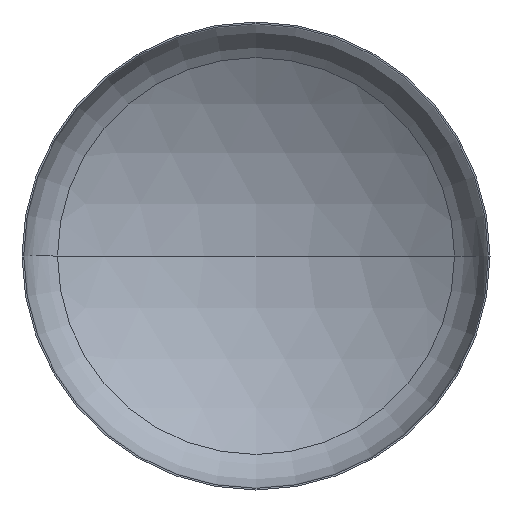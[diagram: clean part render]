
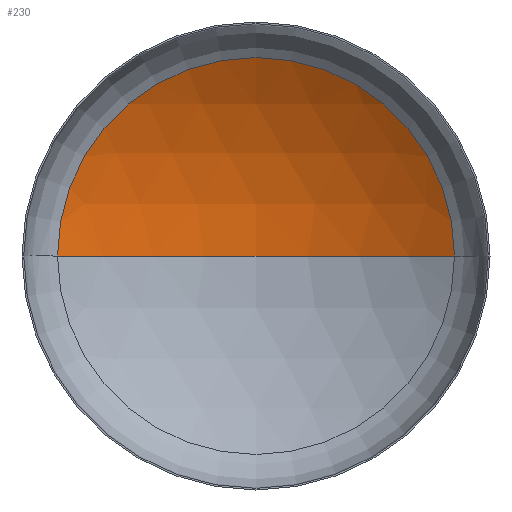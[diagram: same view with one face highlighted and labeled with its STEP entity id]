
A CAD part, front view. The second image highlights one B-rep face of the part: STEP entity #230.
In plain terms, the highlighted spherical face has radius 6000 mm.
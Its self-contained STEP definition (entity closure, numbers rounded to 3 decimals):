
#16 = ORIENTED_EDGE ( 'NONE', *, *, #116, .F. ) ;
#21 = VERTEX_POINT ( 'NONE', #262 ) ;
#24 = EDGE_LOOP ( 'NONE', ( #16, #214, #133 ) ) ;
#36 = DIRECTION ( 'NONE',  ( -1., 0., 0. ) ) ;
#38 = CARTESIAN_POINT ( 'NONE',  ( 0., -4023.455, 0. ) ) ;
#52 = VERTEX_POINT ( 'NONE', #260 ) ;
#71 = AXIS2_PLACEMENT_3D ( 'NONE', #38, #142, #36 ) ;
#83 = AXIS2_PLACEMENT_3D ( 'NONE', #270, #269, #268 ) ;
#86 = AXIS2_PLACEMENT_3D ( 'NONE', #265, #263, #151 ) ;
#88 = AXIS2_PLACEMENT_3D ( 'NONE', #274, #291, #289 ) ;
#114 = EDGE_CURVE ( 'NONE', #52, #21, #220, .T. ) ;
#115 = EDGE_CURVE ( 'NONE', #191, #52, #153, .T. ) ;
#116 = EDGE_CURVE ( 'NONE', #191, #21, #344, .T. ) ;
#133 = ORIENTED_EDGE ( 'NONE', *, *, #114, .T. ) ;
#142 = DIRECTION ( 'NONE',  ( 0., 0., -1. ) ) ;
#143 = CARTESIAN_POINT ( 'NONE',  ( 0., 1976.545, 0. ) ) ;
#151 = DIRECTION ( 'NONE',  ( -1., 0., 0. ) ) ;
#153 = CIRCLE ( 'NONE', #86, 6000. ) ;
#189 = FACE_OUTER_BOUND ( 'NONE', #24, .T. ) ;
#191 = VERTEX_POINT ( 'NONE', #143 ) ;
#214 = ORIENTED_EDGE ( 'NONE', *, *, #115, .T. ) ;
#220 = CIRCLE ( 'NONE', #88, 3180.186 ) ;
#230 = ADVANCED_FACE ( 'NONE', ( #189 ), #389, .F. ) ;
#260 = CARTESIAN_POINT ( 'NONE',  ( 3180.186, 1064.415, 0. ) ) ;
#262 = CARTESIAN_POINT ( 'NONE',  ( -3180.186, 1064.415, 0. ) ) ;
#263 = DIRECTION ( 'NONE',  ( 0., 0., -1. ) ) ;
#265 = CARTESIAN_POINT ( 'NONE',  ( 0., -4023.455, 0. ) ) ;
#268 = DIRECTION ( 'NONE',  ( 1., 0., 0. ) ) ;
#269 = DIRECTION ( 'NONE',  ( 0., 0., 1. ) ) ;
#270 = CARTESIAN_POINT ( 'NONE',  ( 0., -4023.455, 0. ) ) ;
#274 = CARTESIAN_POINT ( 'NONE',  ( 0., 1064.415, 0. ) ) ;
#289 = DIRECTION ( 'NONE',  ( 1., 0., 0. ) ) ;
#291 = DIRECTION ( 'NONE',  ( 0., -1., 0. ) ) ;
#344 = CIRCLE ( 'NONE', #83, 6000. ) ;
#389 = SPHERICAL_SURFACE ( 'NONE', #71, 6000. ) ;
